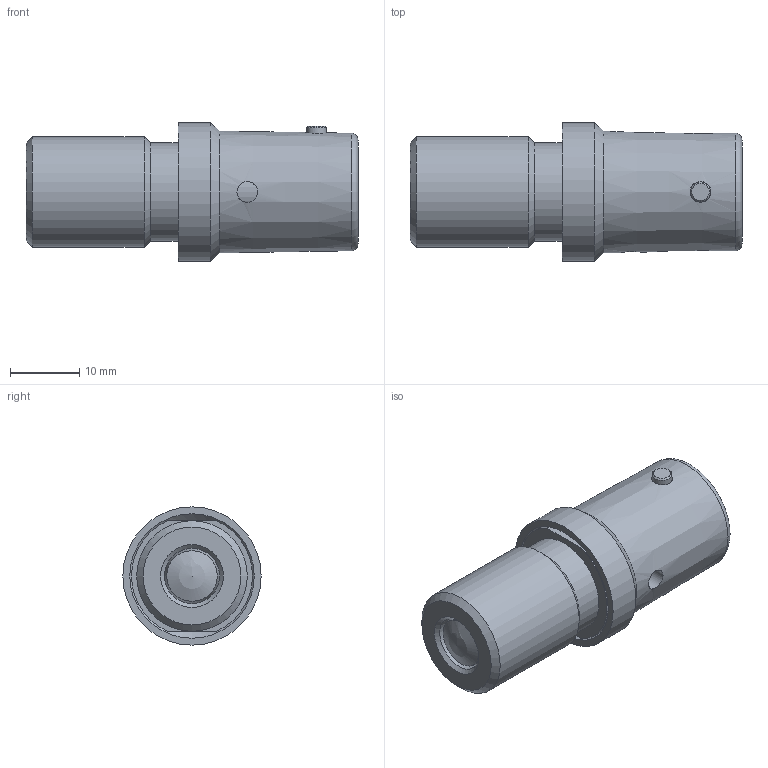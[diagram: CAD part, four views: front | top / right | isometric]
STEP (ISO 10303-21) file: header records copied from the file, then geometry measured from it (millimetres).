
FILE_DESCRIPTION( ( 'STEP AP203' ), '1' );
FILE_NAME( 'C:/Temp/Ganter_Step_05_03_2020/data/3_1/gn816/gn_816_b/Locking plunger GN 816-8-M16x1,5-B (activated).stp', '2020-03-12T08:55:58', ( 'License CC BY-ND 4.0' ), ( 'CADENAS' ), ' ', 'PARTsolutions', ' ' );
FILE_SCHEMA( ( 'CONFIG_CONTROL_DESIGN' ) );
Length unit declared in the file: millimetre
Products named in the file (3): Locking plunger GN 816-8-M16x1,5-B (activated); _GN 816-8-M16x1,5-B(1)-b2; _GN 816-8-M16x1,5-Bb1
Assembly tree (2 placements, depth 2):
  Locking plunger GN 816-8-M16x1,5-B (activated)
    _GN 816-8-M16x1,5-B(1)-b2
    _GN 816-8-M16x1,5-Bb1
Bounding box: 48 x 20 x 20 mm (x, y, z)
Volume: 9416.9 mm3; surface area: 6152.3 mm2
Topology: 2 solids, 2 shells, 40 faces, 79 edges, 49 vertices
Faces by surface type: cylinder 14, plane 12, cone 11, torus 2, sphere 1
Full cylindrical faces by diameter (mm): 2.9 x2, 3 x2, 7 x1, 8 x2, 11.1 x1, 14.2 x1, 16 x1, 18 x1, 20 x1
Entity records: 1288 total; most frequent: CARTESIAN_POINT 462, DIRECTION 160, ORIENTED_EDGE 96, EDGE_LOOP 78, AXIS2_PLACEMENT_3D 77, FACE_OUTER_BOUND 54, EDGE_CURVE 48, VERTEX_POINT 45
